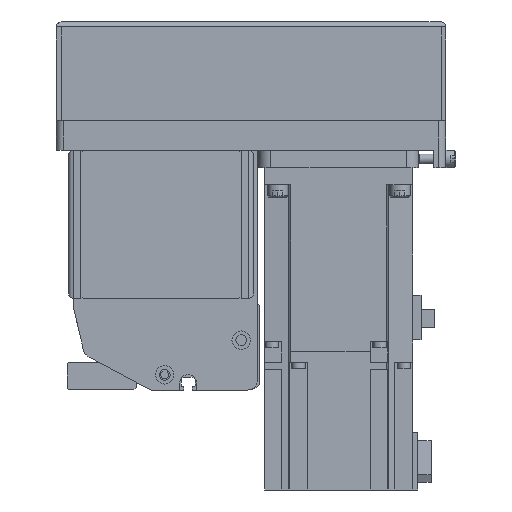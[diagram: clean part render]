
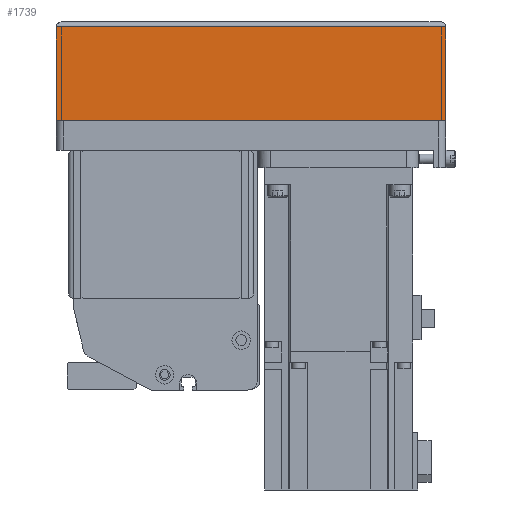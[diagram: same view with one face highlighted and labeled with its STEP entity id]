
A CAD part, left-side view. The second image highlights one B-rep face of the part: STEP entity #1739.
In plain terms, the highlighted planar face has unit normal (-1, 0, 0) as drawn and (0, -1, 0) by its records, which use the part's own axes.
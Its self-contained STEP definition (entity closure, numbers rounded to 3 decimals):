
#1739 = ADVANCED_FACE( '', ( #4152 ), #4153, .T. );
#4152 = FACE_OUTER_BOUND( '', #7397, .T. );
#4153 = PLANE( '', #7398 );
#7397 = EDGE_LOOP( '', ( #12384, #12385, #12386, #12387 ) );
#7398 = AXIS2_PLACEMENT_3D( '', #12388, #12389, #12390 );
#12384 = ORIENTED_EDGE( '', *, *, #19699, .F. );
#12385 = ORIENTED_EDGE( '', *, *, #19960, .F. );
#12386 = ORIENTED_EDGE( '', *, *, #19518, .T. );
#12387 = ORIENTED_EDGE( '', *, *, #19787, .T. );
#12388 = CARTESIAN_POINT( '', ( -158., -39., -12.1 ) );
#12389 = DIRECTION( '', ( 0., -1., 0. ) );
#12390 = DIRECTION( '', ( 0., 0., -1. ) );
#19518 = EDGE_CURVE( '', #23372, #23734, #23736, .T. );
#19699 = EDGE_CURVE( '', #24031, #24033, #24034, .T. );
#19787 = EDGE_CURVE( '', #23734, #24033, #24173, .T. );
#19960 = EDGE_CURVE( '', #23372, #24031, #24435, .T. );
#23372 = VERTEX_POINT( '', #29128 );
#23734 = VERTEX_POINT( '', #29645 );
#23736 = LINE( '', #29648, #29649 );
#24031 = VERTEX_POINT( '', #30088 );
#24033 = VERTEX_POINT( '', #30091 );
#24034 = LINE( '', #30092, #30093 );
#24173 = LINE( '', #30286, #30287 );
#24435 = LINE( '', #30683, #30684 );
#29128 = CARTESIAN_POINT( '', ( -158., -39., -12.1 ) );
#29645 = CARTESIAN_POINT( '', ( -158., -39., -50. ) );
#29648 = CARTESIAN_POINT( '', ( -158., -39., -12.1 ) );
#29649 = VECTOR( '', #35789, 1000. );
#30088 = CARTESIAN_POINT( '', ( 0., -39., -12.1 ) );
#30091 = CARTESIAN_POINT( '', ( 0., -39., -50. ) );
#30092 = CARTESIAN_POINT( '', ( 0., -39., -12.1 ) );
#30093 = VECTOR( '', #36017, 1000. );
#30286 = CARTESIAN_POINT( '', ( -158., -39., -50. ) );
#30287 = VECTOR( '', #36123, 1000. );
#30683 = CARTESIAN_POINT( '', ( -158., -39., -12.1 ) );
#30684 = VECTOR( '', #36321, 1000. );
#35789 = DIRECTION( '', ( 0., 0., -1. ) );
#36017 = DIRECTION( '', ( 0., 0., -1. ) );
#36123 = DIRECTION( '', ( 1., 0., 0. ) );
#36321 = DIRECTION( '', ( 1., 0., 0. ) );
